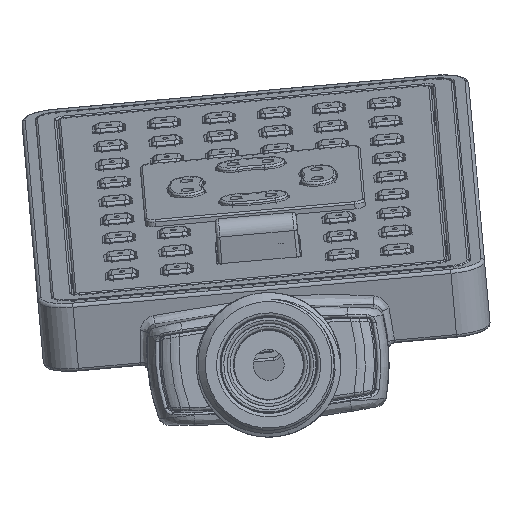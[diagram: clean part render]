
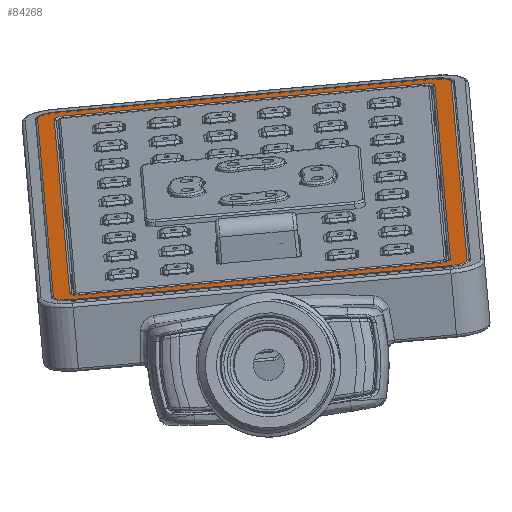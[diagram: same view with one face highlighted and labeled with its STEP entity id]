
A CAD part, front view. The second image highlights one B-rep face of the part: STEP entity #84268.
In plain terms, the highlighted planar face has unit normal (-0.086, -0.259, 0.962).
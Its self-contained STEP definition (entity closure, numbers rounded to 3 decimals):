
#418=FACE_BOUND('',#14597,.T.);
#3031=PLANE('',#93826);
#9306=FACE_OUTER_BOUND('',#14596,.T.);
#14596=EDGE_LOOP('',(#75866,#75867,#75868,#75869,#75870,#75871,#75872,#75873));
#14597=EDGE_LOOP('',(#75874,#75875,#75876,#75877,#75878,#75879,#75880,#75881));
#19802=CIRCLE('',#93827,2.6);
#19803=CIRCLE('',#93828,2.6);
#19804=CIRCLE('',#93829,2.6);
#19805=CIRCLE('',#93830,2.6);
#19806=CIRCLE('',#93831,1.45);
#19807=CIRCLE('',#93832,1.45);
#19808=CIRCLE('',#93833,1.45);
#19809=CIRCLE('',#93834,1.45);
#26179=LINE('',#160487,#32554);
#26180=LINE('',#160491,#32555);
#26181=LINE('',#160495,#32556);
#26182=LINE('',#160498,#32557);
#26183=LINE('',#160501,#32558);
#26184=LINE('',#160505,#32559);
#26185=LINE('',#160509,#32560);
#26186=LINE('',#160513,#32561);
#32554=VECTOR('',#118714,55.);
#32555=VECTOR('',#118717,100.);
#32556=VECTOR('',#118720,55.);
#32557=VECTOR('',#118723,100.);
#32558=VECTOR('',#118724,97.5);
#32559=VECTOR('',#118727,52.5);
#32560=VECTOR('',#118730,97.5);
#32561=VECTOR('',#118733,52.5);
#40026=VERTEX_POINT('',#160483);
#40027=VERTEX_POINT('',#160484);
#40028=VERTEX_POINT('',#160486);
#40029=VERTEX_POINT('',#160488);
#40030=VERTEX_POINT('',#160490);
#40031=VERTEX_POINT('',#160492);
#40032=VERTEX_POINT('',#160494);
#40033=VERTEX_POINT('',#160496);
#40034=VERTEX_POINT('',#160499);
#40035=VERTEX_POINT('',#160500);
#40036=VERTEX_POINT('',#160502);
#40037=VERTEX_POINT('',#160504);
#40038=VERTEX_POINT('',#160506);
#40039=VERTEX_POINT('',#160508);
#40040=VERTEX_POINT('',#160510);
#40041=VERTEX_POINT('',#160512);
#52074=EDGE_CURVE('',#40026,#40027,#19802,.T.);
#52075=EDGE_CURVE('',#40027,#40028,#26179,.T.);
#52076=EDGE_CURVE('',#40028,#40029,#19803,.T.);
#52077=EDGE_CURVE('',#40029,#40030,#26180,.T.);
#52078=EDGE_CURVE('',#40030,#40031,#19804,.T.);
#52079=EDGE_CURVE('',#40031,#40032,#26181,.T.);
#52080=EDGE_CURVE('',#40032,#40033,#19805,.T.);
#52081=EDGE_CURVE('',#40033,#40026,#26182,.T.);
#52082=EDGE_CURVE('',#40034,#40035,#26183,.T.);
#52083=EDGE_CURVE('',#40035,#40036,#19806,.T.);
#52084=EDGE_CURVE('',#40036,#40037,#26184,.T.);
#52085=EDGE_CURVE('',#40037,#40038,#19807,.T.);
#52086=EDGE_CURVE('',#40038,#40039,#26185,.T.);
#52087=EDGE_CURVE('',#40039,#40040,#19808,.T.);
#52088=EDGE_CURVE('',#40040,#40041,#26186,.T.);
#52089=EDGE_CURVE('',#40041,#40034,#19809,.T.);
#75866=ORIENTED_EDGE('',*,*,#52074,.T.);
#75867=ORIENTED_EDGE('',*,*,#52075,.T.);
#75868=ORIENTED_EDGE('',*,*,#52076,.T.);
#75869=ORIENTED_EDGE('',*,*,#52077,.T.);
#75870=ORIENTED_EDGE('',*,*,#52078,.T.);
#75871=ORIENTED_EDGE('',*,*,#52079,.T.);
#75872=ORIENTED_EDGE('',*,*,#52080,.T.);
#75873=ORIENTED_EDGE('',*,*,#52081,.T.);
#75874=ORIENTED_EDGE('',*,*,#52082,.T.);
#75875=ORIENTED_EDGE('',*,*,#52083,.T.);
#75876=ORIENTED_EDGE('',*,*,#52084,.T.);
#75877=ORIENTED_EDGE('',*,*,#52085,.T.);
#75878=ORIENTED_EDGE('',*,*,#52086,.T.);
#75879=ORIENTED_EDGE('',*,*,#52087,.T.);
#75880=ORIENTED_EDGE('',*,*,#52088,.T.);
#75881=ORIENTED_EDGE('',*,*,#52089,.T.);
#84268=ADVANCED_FACE('',(#9306,#418),#3031,.T.);
#93826=AXIS2_PLACEMENT_3D('',#160482,#118710,#118711);
#93827=AXIS2_PLACEMENT_3D('',#160485,#118712,#118713);
#93828=AXIS2_PLACEMENT_3D('',#160489,#118715,#118716);
#93829=AXIS2_PLACEMENT_3D('',#160493,#118718,#118719);
#93830=AXIS2_PLACEMENT_3D('',#160497,#118721,#118722);
#93831=AXIS2_PLACEMENT_3D('',#160503,#118725,#118726);
#93832=AXIS2_PLACEMENT_3D('',#160507,#118728,#118729);
#93833=AXIS2_PLACEMENT_3D('',#160511,#118731,#118732);
#93834=AXIS2_PLACEMENT_3D('',#160514,#118734,#118735);
#118710=DIRECTION('center_axis',(-0.086,-0.259,
0.962));
#118711=DIRECTION('ref_axis',(0.996,0.,0.089));
#118712=DIRECTION('center_axis',(-0.086,-0.259,
0.962));
#118713=DIRECTION('ref_axis',(-0.996,0.,
-0.089));
#118714=DIRECTION('',(0.996,0.,0.089));
#118715=DIRECTION('center_axis',(-0.086,-0.259,
0.962));
#118716=DIRECTION('ref_axis',(0.023,-0.966,-0.258));
#118717=DIRECTION('',(-0.023,0.966,0.258));
#118718=DIRECTION('center_axis',(-0.086,-0.259,
0.962));
#118719=DIRECTION('ref_axis',(0.996,0.,0.089));
#118720=DIRECTION('',(-0.996,0.,-0.089));
#118721=DIRECTION('center_axis',(-0.086,-0.259,
0.962));
#118722=DIRECTION('ref_axis',(-0.023,0.966,0.258));
#118723=DIRECTION('',(0.023,-0.966,-0.258));
#118724=DIRECTION('',(-0.023,0.966,0.258));
#118725=DIRECTION('center_axis',(0.086,0.259,-0.962));
#118726=DIRECTION('ref_axis',(-0.996,0.,
-0.089));
#118727=DIRECTION('',(0.996,0.,0.089));
#118728=DIRECTION('center_axis',(0.086,0.259,-0.962));
#118729=DIRECTION('ref_axis',(-0.023,0.966,0.258));
#118730=DIRECTION('',(0.023,-0.966,-0.258));
#118731=DIRECTION('center_axis',(0.086,0.259,-0.962));
#118732=DIRECTION('ref_axis',(0.996,0.,0.089));
#118733=DIRECTION('',(-0.996,0.,-0.089));
#118734=DIRECTION('center_axis',(0.086,0.259,-0.962));
#118735=DIRECTION('ref_axis',(0.023,-0.966,-0.258));
#160482=CARTESIAN_POINT('Origin',(49.425,204.535,25.452));
#160483=CARTESIAN_POINT('',(20.495,156.336,9.9));
#160484=CARTESIAN_POINT('',(23.144,153.824,9.461));
#160485=CARTESIAN_POINT('Origin',(23.084,156.336,10.131));
#160486=CARTESIAN_POINT('',(77.926,153.824,14.357));
#160487=CARTESIAN_POINT('',(23.144,153.824,9.461));
#160488=CARTESIAN_POINT('',(80.456,156.336,15.259));
#160489=CARTESIAN_POINT('Origin',(77.866,156.336,15.028));
#160490=CARTESIAN_POINT('',(78.152,252.928,41.038));
#160491=CARTESIAN_POINT('',(80.456,156.336,15.259));
#160492=CARTESIAN_POINT('',(75.502,255.44,41.477));
#160493=CARTESIAN_POINT('Origin',(75.562,252.928,40.807));
#160494=CARTESIAN_POINT('',(20.721,255.44,36.581));
#160495=CARTESIAN_POINT('',(75.502,255.44,41.477));
#160496=CARTESIAN_POINT('',(18.191,252.928,35.679));
#160497=CARTESIAN_POINT('Origin',(20.78,252.928,35.91));
#160498=CARTESIAN_POINT('',(18.191,252.928,35.679));
#160499=CARTESIAN_POINT('',(22.856,157.543,10.436));
#160500=CARTESIAN_POINT('',(20.61,251.721,35.57));
#160501=CARTESIAN_POINT('',(22.856,157.543,10.436));
#160502=CARTESIAN_POINT('',(22.021,253.122,36.073));
#160503=CARTESIAN_POINT('Origin',(22.054,251.721,35.699));
#160504=CARTESIAN_POINT('',(74.312,253.122,40.747));
#160505=CARTESIAN_POINT('',(22.021,253.122,36.073));
#160506=CARTESIAN_POINT('',(75.79,251.721,40.502));
#160507=CARTESIAN_POINT('Origin',(74.346,251.721,40.373));
#160508=CARTESIAN_POINT('',(78.037,157.543,15.368));
#160509=CARTESIAN_POINT('',(75.79,251.721,40.502));
#160510=CARTESIAN_POINT('',(76.626,156.143,14.865));
#160511=CARTESIAN_POINT('Origin',(76.592,157.543,15.238));
#160512=CARTESIAN_POINT('',(24.334,156.143,10.191));
#160513=CARTESIAN_POINT('',(76.626,156.143,14.865));
#160514=CARTESIAN_POINT('Origin',(24.301,157.543,10.565));
